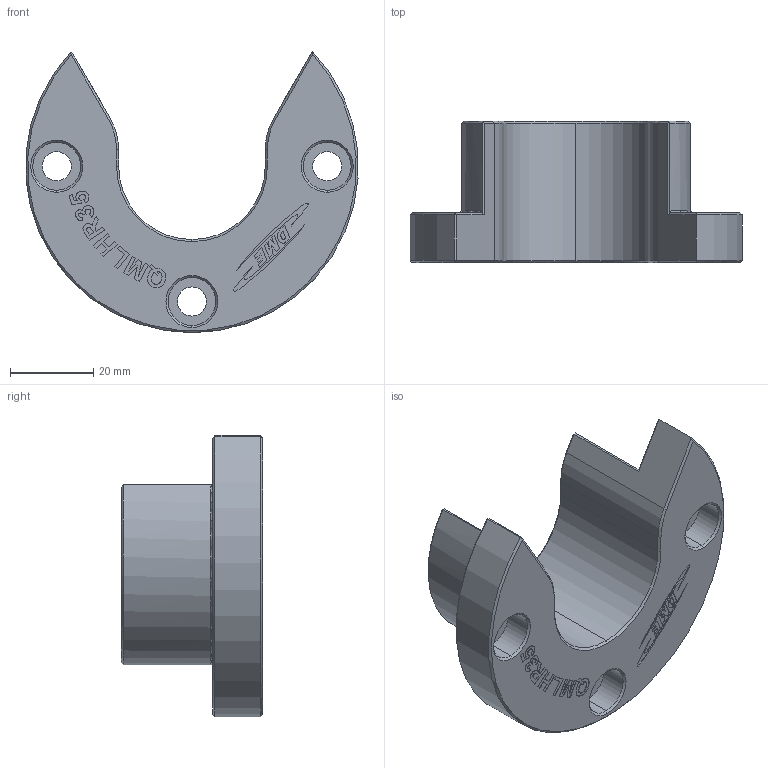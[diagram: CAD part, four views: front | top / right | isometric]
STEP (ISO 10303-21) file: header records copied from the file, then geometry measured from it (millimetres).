
FILE_DESCRIPTION (( 'STEP AP214' ), '1' );
FILE_NAME ('QMLHR35.STEP', '2022-04-29T14:44:32', ( '' ), ( '' ), 'SwSTEP 2.0', 'SolidWorks 2020', '' );
FILE_SCHEMA (( 'AUTOMOTIVE_DESIGN' ));
Length unit declared in the file: millimetre
Products named in the file (1): QMLHR35
Bounding box: 79.78 x 34 x 67.63 mm (x, y, z)
Volume: 51669.9 mm3; surface area: 14560.7 mm2
Topology: 1 solids, 1 shells, 237 faces, 609 edges, 392 vertices
Faces by surface type: plane 126, bspline 65, cone 24, cylinder 20, torus 2
Entity records: 11049 total; most frequent: CARTESIAN_POINT 3896, ORIENTED_EDGE 1218, DIRECTION 882, EDGE_CURVE 609, LINE 402, VECTOR 402, VERTEX_POINT 392, EDGE_LOOP 261
